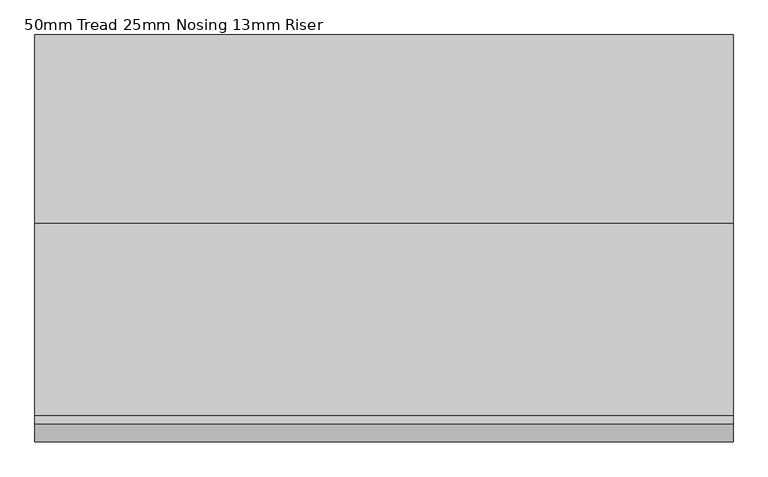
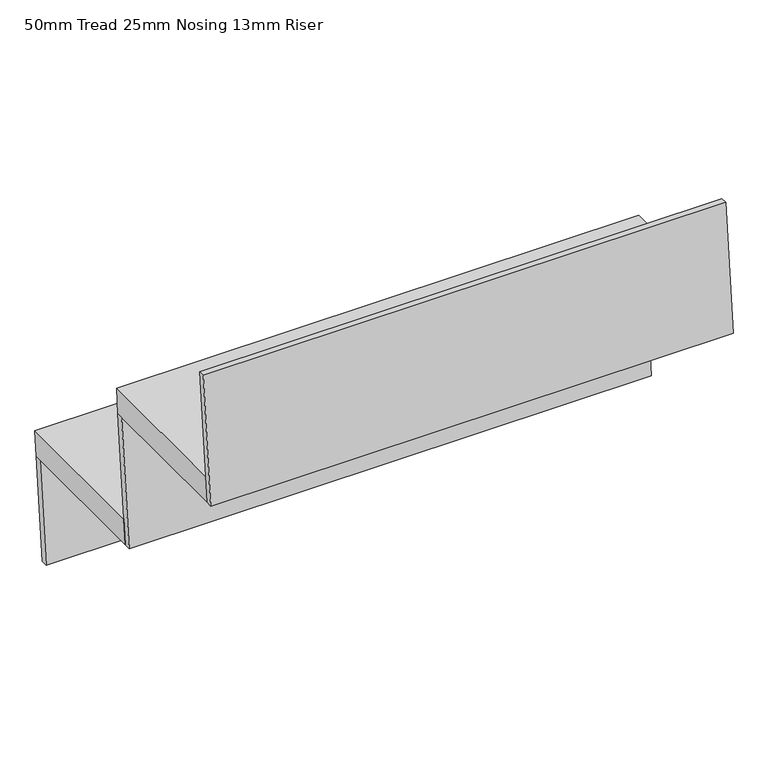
"""IFC4 building model written with IfcOpenShell, lengths in millimetres: stair flight geometry, 50mm Tread 25mm Nosing 13mm Riser."""

from ifc_helpers import new_model, si_unit, frame, origin, place, context, project, spatial, polyline, outline, extrude, source, transform, mapped, element, save


def stair_flight_50mm_tread_25mm_nosing_13mm_riser_0e36097c(model_context):
    return source(origin(), model_context, "Body", "SweptSolid", [
        extrude(outline(polyline([(3710.1038353, 254.0), (4010.1038353, 254.0), (4005.1825754, 204.0), (3705.1825754, 204.0), (3710.1038353, 254.0)])), frame((3994.7197598, 0.0, 0.0), z_axis=(1.0, 0.0, 0.0), x_axis=(0.0, 1.0, 0.0)), (0.0, 0.0, 1.0), 1016.0),
        extrude(outline(polyline([(4005.1825754, 204.0), (3985.1038353, 0.0), (3972.5434342, 0.0), (3992.6221744, 204.0), (4005.1825754, 204.0)])), frame((3994.7197598, 0.0, 0.0), z_axis=(1.0, 0.0, 0.0), x_axis=(0.0, 1.0, 0.0)), (0.0, 0.0, 1.0), 1016.0),
        extrude(outline(polyline([(3730.1825754, 458.0), (3705.1825754, 204.0), (3692.6221744, 204.0), (3717.6221744, 458.0), (3730.1825754, 458.0)])), frame((3994.7197598, 0.0, 0.0), z_axis=(1.0, 0.0, 0.0), x_axis=(0.0, 1.0, 0.0)), (0.0, 0.0, 1.0), 1016.0),
        extrude(outline(polyline([(3455.1825754, 712.0), (3430.1825754, 458.0), (3417.6221744, 458.0), (3442.6221744, 712.0), (3455.1825754, 712.0)])), frame((3994.7197598, 0.0, 0.0), z_axis=(1.0, 0.0, 0.0), x_axis=(0.0, 1.0, 0.0)), (0.0, 0.0, 1.0), 1016.0),
        extrude(outline(polyline([(3435.1038353, 508.0), (3735.1038353, 508.0), (3730.1825754, 458.0), (3430.1825754, 458.0), (3435.1038353, 508.0)])), frame((3994.7197598, 0.0, 0.0), z_axis=(1.0, 0.0, 0.0), x_axis=(0.0, 1.0, 0.0)), (0.0, 0.0, 1.0), 1016.0),
    ])


if __name__ == "__main__":
    model = new_model("IFC4")
    model_context = context("Model", 3, world=origin())
    ifc_project = project(units=[si_unit("LENGTHUNIT", "METRE", prefix="MILLI")], contexts=[model_context])
    site = spatial("IfcSite", under=ifc_project)
    building = spatial("IfcBuilding", under=site)
    placement = place(None, origin())
    stair_flight_50mm_tread_25mm_nosing_13mm_riser_shape = stair_flight_50mm_tread_25mm_nosing_13mm_riser_0e36097c(model_context)
    element("IfcStairFlight", 1, ObjectType="50mm Tread 25mm Nosing 13mm Riser", at=placement, inside=building, context=model_context, shape_type="MappedRepresentation", body=[
        mapped(stair_flight_50mm_tread_25mm_nosing_13mm_riser_shape, transform((0.0, 0.0, 0.0), x_axis=(1.0, 0.0, 0.0), y_axis=(0.0, 1.0, 0.0), z_axis=(0.0, 0.0, 1.0))),
    ])
    save(model, "model.ifc")
